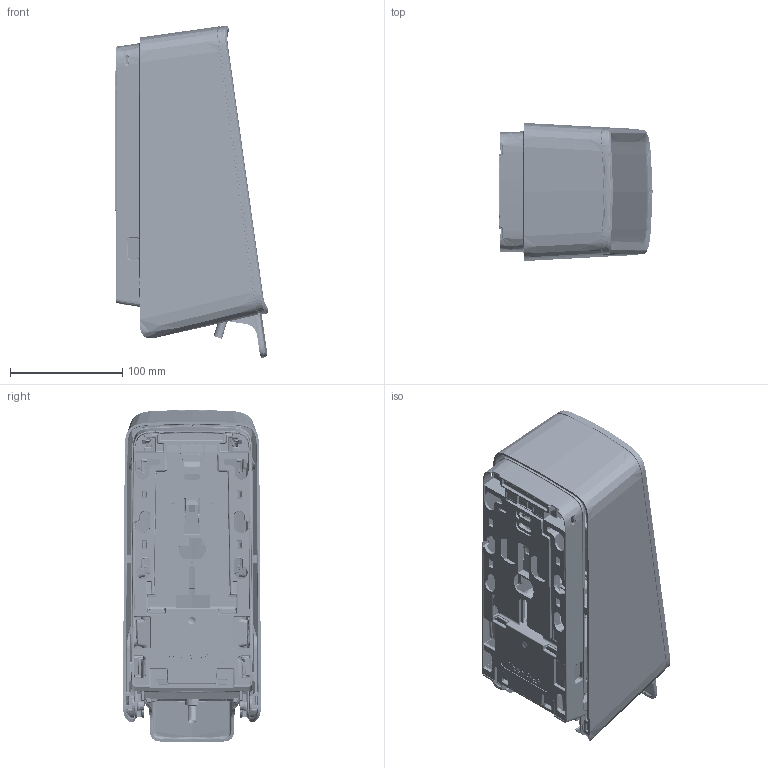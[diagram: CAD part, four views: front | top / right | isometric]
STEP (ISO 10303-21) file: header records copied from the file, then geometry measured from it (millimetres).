
FILE_DESCRIPTION (( 'STEP AP214' ), '1' );
FILE_NAME ('PureLine Liquid touch final.STEP', '2023-03-02T16:43:50', ( '' ), ( '' ), 'SwSTEP 2.0', 'SolidWorks 2023', '' );
FILE_SCHEMA (( 'AUTOMOTIVE_DESIGN' ));
Length unit declared in the file: millimetre
Products named in the file (9): PureLine Liquid touch.sldasm-Part-8; PureLine Liquid touch.sldasm-Part-15; PureLine Liquid touch final; PureLine Liquid touch.sldasm-Part-11; PureLine Liquid touch.sldasm-Part-12; PureLine Liquid touch.sldasm-Part-14; PureLine Liquid touch.sldasm-Part-7; PureLine Liquid touch.sldasm-Part-16; PureLine Liquid touch.sldasm-Part-4
Assembly tree (8 placements, depth 2):
  PureLine Liquid touch final
    PureLine Liquid touch.sldasm-Part-4
    PureLine Liquid touch.sldasm-Part-7
    PureLine Liquid touch.sldasm-Part-8
    PureLine Liquid touch.sldasm-Part-11
    PureLine Liquid touch.sldasm-Part-12
    PureLine Liquid touch.sldasm-Part-14
    PureLine Liquid touch.sldasm-Part-15
    PureLine Liquid touch.sldasm-Part-16
Bounding box: 136.5 x 123.2 x 295.95 mm (x, y, z)
Volume: 520019.5 mm3; surface area: 515464.3 mm2
Topology: 7 solids, 15 shells, 13714 faces, 33527 edges, 19472 vertices
Faces by surface type: bspline 6831, cylinder 3412, plane 1990, sphere 868, torus 350, cone 263
Entity records: 574912 total; most frequent: CARTESIAN_POINT 312701, ORIENTED_EDGE 65809, DIRECTION 40617, EDGE_CURVE 33134, VERTEX_POINT 19402, AXIS2_PLACEMENT_3D 16204, EDGE_LOOP 13877, ADVANCED_FACE 13712
